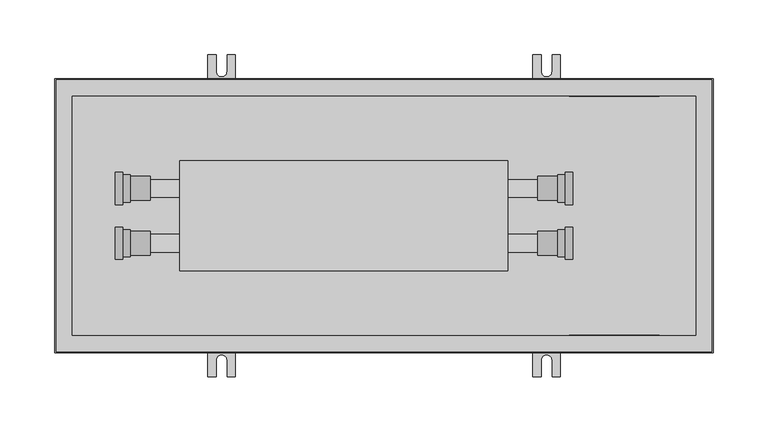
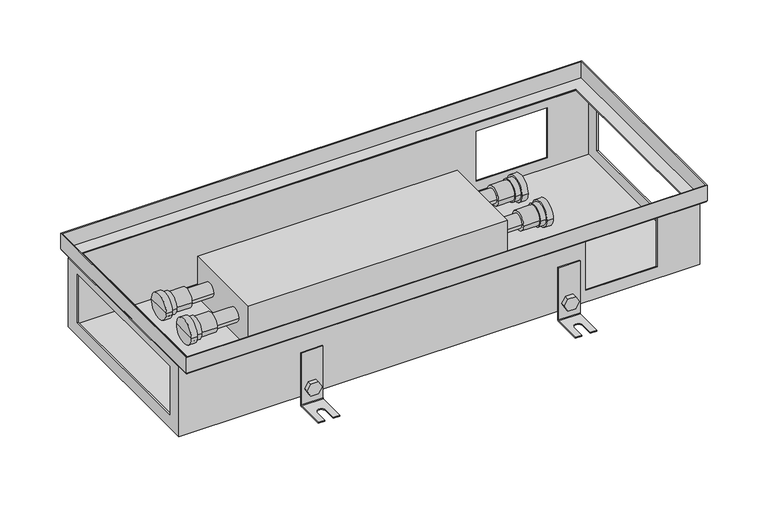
"""IFC4 building model written with IfcOpenShell, lengths in millimetres: proxy geometry, TECHNO_Конвектор встраиваемый_Usual_KVP-250_85-105-120 : KVP 250-105."""

from ifc_helpers import new_model, si_unit, point, frame, frame_2d, origin, place, context, project, spatial, polyline, circle_curve, ellipse_curve, trimmed, segment, composite_curve, outline, extrude, faceted_brep, source, transform, mapped, element, save
from ifc_brep_helpers import plane_surface, cylinder_surface, revolved_surface, advanced_brep


def mechanical_equipment_b7342399(model_context):
    return source(origin(), model_context, "Body", "SolidModel", [
        extrude(outline(composite_curve([segment(trimmed(circle_curve(frame_2d((-95.5, 448.2)), 7.5), [point((-95.5, 440.7))], [point((-95.5, 455.7))], False, "CARTESIAN"), True, "CONTINUOUS"), segment(trimmed(circle_curve(frame_2d((-95.5, 448.2)), 7.5), [point((-95.5, 455.7))], [point((-95.5, 440.7))], False, "CARTESIAN"), True, "CONTINUOUS")], self_intersect=False)), frame((0.0, 110.2, 0.0), z_axis=(0.0, 1.0, 0.0), x_axis=(0.0, 0.0, 1.0)), (0.0, 0.0, 1.0), 1.5),
        extrude(outline(polyline([(-95.5, 439.539746), (-103.0, 443.869873), (-103.0, 452.530127), (-95.5, 456.860254), (-88.0, 452.530127), (-88.0, 443.869873), (-95.5, 439.539746)])), frame((0.0, 112.9, 0.0), z_axis=(0.0, 1.0, 0.0), x_axis=(0.0, 0.0, 1.0)), (0.0, 0.0, 1.0), 5.1),
        advanced_brep(
        [(460.7, 112.9, -50.5), (460.7, 111.7, -50.5), (460.7, 111.7, -113.5), (460.7, 113.7, -115.5), (460.7, 146.7, -115.5), (460.7, 146.7, -114.3), (460.7, 113.7, -114.3), (460.7, 112.9, -113.5), (435.7, 112.9, -50.5), (435.7, 112.9, -113.5), (435.7, 113.7, -114.3), (435.7, 146.7, -114.3), (435.7, 146.7, -115.5), (435.7, 113.7, -115.5), (435.7, 111.7, -113.5), (435.7, 111.7, -50.5), (453.2, 146.7, -114.3), (453.2, 131.7, -114.3), (443.2, 131.7, -114.3), (443.2, 146.7, -114.3), (443.2, 146.7, -115.5), (453.2, 146.7, -115.5), (443.2, 131.7, -115.5), (453.2, 131.7, -115.5)],
        [
            (0, 1),
            (1, 2),
            (2, 3, circle_curve(frame((460.7, 113.7, -113.5), z_axis=(1.0, 0.0, 0.0), x_axis=(0.0, 1.0, 0.0)), 2.0)),
            (3, 4),
            (4, 5),
            (5, 6),
            (6, 7, circle_curve(frame((460.7, 113.7, -113.5), z_axis=(-1.0, 0.0, 0.0), x_axis=(0.0, 1.0, 0.0)), 0.8)),
            (7, 0),
            (8, 9),
            (9, 10, circle_curve(frame((435.7, 113.7, -113.5), z_axis=(1.0, 0.0, 0.0), x_axis=(0.0, 1.0, 0.0)), 0.8)),
            (10, 11),
            (11, 12),
            (12, 13),
            (13, 14, circle_curve(frame((435.7, 113.7, -113.5), z_axis=(-1.0, 0.0, 0.0), x_axis=(0.0, 1.0, 0.0)), 2.0)),
            (14, 15),
            (15, 8),
            (7, 9),
            (8, 0),
            (6, 10),
            (5, 16),
            (16, 17),
            (17, 18, circle_curve(frame((448.2, 131.7, -114.3), z_axis=(0.0, 0.0, -1.0), x_axis=(1.0, 0.0, 0.0)), 5.0)),
            (18, 19),
            (19, 11),
            (19, 20),
            (20, 12),
            (4, 21),
            (21, 16),
            (3, 13),
            (20, 22),
            (22, 23, circle_curve(frame((448.2, 131.7, -115.5), z_axis=(0.0, 0.0, 1.0), x_axis=(1.0, 0.0, 0.0)), 5.0)),
            (23, 21),
            (2, 14),
            (1, 15),
            (18, 22),
            (23, 17),
        ],
        [
            plane_surface(frame((460.7, 112.9, -50.5), z_axis=(1.0, 0.0, 0.0), x_axis=(0.0, 0.0, -1.0))),
            plane_surface(frame((435.7, 112.9, -50.5), z_axis=(-1.0, 0.0, 0.0), x_axis=(0.0, 0.0, 1.0))),
            plane_surface(frame((460.7, 112.9, -50.5), z_axis=(0.0, 1.0, 0.0), x_axis=(-1.0, 0.0, 0.0))),
            revolved_surface(polyline([(435.7, 114.5, -113.5), (460.7, 114.5, -113.5)]), (435.7, 113.7, -113.5), (-1.0, 0.0, 0.0)),
            plane_surface(frame((460.7, 113.7, -114.3), z_axis=(0.0, 0.0, 1.0), x_axis=(-1.0, 0.0, 0.0))),
            plane_surface(frame((460.7, 146.7, -114.3), z_axis=(0.0, 1.0, 0.0), x_axis=(-1.0, 0.0, 0.0))),
            plane_surface(frame((460.7, 146.7, -115.5), z_axis=(0.0, 0.0, -1.0), x_axis=(-1.0, 0.0, 0.0))),
            cylinder_surface(frame((435.7, 113.7, -113.5), z_axis=(1.0, 0.0, 0.0), x_axis=(0.0, 1.0, 0.0)), 2.0),
            plane_surface(frame((460.7, 111.7, -113.5), z_axis=(0.0, -1.0, 0.0), x_axis=(-1.0, 0.0, 0.0))),
            plane_surface(frame((460.7, 111.7, -50.5), z_axis=(0.0, 0.0, 1.0), x_axis=(-1.0, 0.0, 0.0))),
            plane_surface(frame((443.2, 131.7, -114.3), z_axis=(1.0, 0.0, 0.0), x_axis=(0.0, 0.0, -1.0))),
            plane_surface(frame((453.2, 146.7, -114.3), z_axis=(-1.0, 0.0, 0.0), x_axis=(0.0, 0.0, -1.0))),
            revolved_surface(polyline([(453.2, 131.7, -114.3), (453.2, 131.7, -115.5)]), (448.2, 131.7, -115.5), (0.0, 0.0, 1.0)),
        ],
        [
            (0, [[1, 2, 3, 4, 5, 6, 7, 8]]),
            (1, [[9, 10, 11, 12, 13, 14, 15, 16]]),
            (2, [[17, -9, 18, -8]]),
            (3, [[19, -10, -17, -7]]),
            (4, [[20, 21, 22, 23, 24, -11, -19, -6]]),
            (5, [[-24, 25, 26, -12]]),
            (5, [[27, 28, -20, -5]]),
            (6, [[29, -13, -26, 30, 31, 32, -27, -4]]),
            (7, [[33, -14, -29, -3]]),
            (8, [[34, -15, -33, -2]]),
            (9, [[-18, -16, -34, -1]]),
            (10, [[-30, -25, -23, 35]]),
            (11, [[-21, -28, -32, 36]]),
            (12, [[-22, -36, -31, -35]]),
        ],
    ),
        extrude(outline(composite_curve([segment(trimmed(circle_curve(frame_2d((-95.5, 448.2)), 7.5), [point((-95.5, 440.7))], [point((-95.5, 455.7))], False, "CARTESIAN"), True, "CONTINUOUS"), segment(trimmed(circle_curve(frame_2d((-95.5, 448.2)), 7.5), [point((-95.5, 455.7))], [point((-95.5, 440.7))], False, "CARTESIAN"), True, "CONTINUOUS")], self_intersect=False)), frame((0.0, -111.7, 0.0), z_axis=(0.0, 1.0, 0.0), x_axis=(0.0, 0.0, 1.0)), (0.0, 0.0, 1.0), 1.5),
        extrude(outline(polyline([(-95.5, 439.539746), (-103.0, 443.869873), (-103.0, 452.530127), (-95.5, 456.860254), (-88.0, 452.530127), (-88.0, 443.869873), (-95.5, 439.539746)])), frame((0.0, -118.0, 0.0), z_axis=(0.0, 1.0, 0.0), x_axis=(0.0, 0.0, 1.0)), (0.0, 0.0, 1.0), 5.1),
        advanced_brep(
        [(460.7, -112.9, -50.5), (460.7, -112.9, -113.5), (460.7, -113.7, -114.3), (460.7, -146.7, -114.3), (460.7, -146.7, -115.5), (460.7, -113.7, -115.5), (460.7, -111.7, -113.5), (460.7, -111.7, -50.5), (435.7, -112.9, -50.5), (435.7, -111.7, -50.5), (435.7, -111.7, -113.5), (435.7, -113.7, -115.5), (435.7, -146.7, -115.5), (435.7, -146.7, -114.3), (435.7, -113.7, -114.3), (435.7, -112.9, -113.5), (443.2, -146.7, -114.3), (443.2, -131.7, -114.3), (453.2, -131.7, -114.3), (453.2, -146.7, -114.3), (453.2, -146.7, -115.5), (443.2, -146.7, -115.5), (453.2, -131.7, -115.5), (443.2, -131.7, -115.5)],
        [
            (0, 1),
            (1, 2, circle_curve(frame((460.7, -113.7, -113.5), z_axis=(-1.0, 0.0, 0.0), x_axis=(0.0, -1.0, 0.0)), 0.8)),
            (2, 3),
            (3, 4),
            (4, 5),
            (5, 6, circle_curve(frame((460.7, -113.7, -113.5), z_axis=(1.0, 0.0, 0.0), x_axis=(0.0, -1.0, 0.0)), 2.0)),
            (6, 7),
            (7, 0),
            (8, 9),
            (9, 10),
            (10, 11, circle_curve(frame((435.7, -113.7, -113.5), z_axis=(-1.0, 0.0, 0.0), x_axis=(0.0, -1.0, 0.0)), 2.0)),
            (11, 12),
            (12, 13),
            (13, 14),
            (14, 15, circle_curve(frame((435.7, -113.7, -113.5), z_axis=(1.0, 0.0, 0.0), x_axis=(0.0, -1.0, 0.0)), 0.8)),
            (15, 8),
            (0, 8),
            (15, 1),
            (14, 2),
            (13, 16),
            (16, 17),
            (17, 18, circle_curve(frame((448.2, -131.7, -114.3), z_axis=(0.0, 0.0, -1.0), x_axis=(1.0, 0.0, 0.0)), 5.0)),
            (18, 19),
            (19, 3),
            (19, 20),
            (20, 4),
            (12, 21),
            (21, 16),
            (20, 22),
            (22, 23, circle_curve(frame((448.2, -131.7, -115.5), z_axis=(0.0, 0.0, 1.0), x_axis=(1.0, 0.0, 0.0)), 5.0)),
            (23, 21),
            (11, 5),
            (10, 6),
            (9, 7),
            (23, 17),
            (18, 22),
        ],
        [
            plane_surface(frame((460.7, -112.9, -50.5), z_axis=(1.0, 0.0, 0.0), x_axis=(0.0, 0.0, -1.0))),
            plane_surface(frame((435.7, -112.9, -50.5), z_axis=(-1.0, 0.0, 0.0), x_axis=(0.0, 0.0, 1.0))),
            plane_surface(frame((460.7, -112.9, -50.5), z_axis=(0.0, -1.0, 0.0), x_axis=(-1.0, 0.0, 0.0))),
            revolved_surface(polyline([(435.7, -114.5, -113.5), (460.7, -114.5, -113.5)]), (435.7, -113.7, -113.5), (-1.0, 0.0, 0.0)),
            plane_surface(frame((460.7, -113.7, -114.3), z_axis=(0.0, 0.0, 1.0), x_axis=(-1.0, 0.0, 0.0))),
            plane_surface(frame((460.7, -146.7, -114.3), z_axis=(0.0, -1.0, 0.0), x_axis=(-1.0, 0.0, 0.0))),
            plane_surface(frame((460.7, -146.7, -115.5), z_axis=(0.0, 0.0, -1.0), x_axis=(-1.0, 0.0, 0.0))),
            cylinder_surface(frame((435.7, -113.7, -113.5), z_axis=(1.0, 0.0, 0.0), x_axis=(0.0, -1.0, 0.0)), 2.0),
            plane_surface(frame((460.7, -111.7, -113.5), z_axis=(0.0, 1.0, 0.0), x_axis=(-1.0, 0.0, 0.0))),
            plane_surface(frame((460.7, -111.7, -50.5), z_axis=(0.0, 0.0, 1.0), x_axis=(-1.0, 0.0, 0.0))),
            plane_surface(frame((443.2, -131.7, -114.3), z_axis=(1.0, 0.0, 0.0), x_axis=(0.0, 0.0, -1.0))),
            plane_surface(frame((453.2, -146.7, -114.3), z_axis=(-1.0, 0.0, 0.0), x_axis=(0.0, 0.0, -1.0))),
            revolved_surface(polyline([(453.2, -131.7, -114.3), (453.2, -131.7, -115.5)]), (448.2, -131.7, -115.5), (0.0, 0.0, 1.0)),
        ],
        [
            (0, [[1, 2, 3, 4, 5, 6, 7, 8]]),
            (1, [[9, 10, 11, 12, 13, 14, 15, 16]]),
            (2, [[-1, 17, -16, 18]]),
            (3, [[-2, -18, -15, 19]]),
            (4, [[-3, -19, -14, 20, 21, 22, 23, 24]]),
            (5, [[-4, -24, 25, 26]]),
            (5, [[-13, 27, 28, -20]]),
            (6, [[-5, -26, 29, 30, 31, -27, -12, 32]]),
            (7, [[-6, -32, -11, 33]]),
            (8, [[-7, -33, -10, 34]]),
            (9, [[-8, -34, -9, -17]]),
            (10, [[35, -21, -28, -31]]),
            (11, [[36, -29, -25, -23]]),
            (12, [[-35, -30, -36, -22]]),
        ],
    ),
        extrude(outline(composite_curve([segment(trimmed(circle_curve(frame_2d((-95.5, 152.0)), 7.5), [point((-95.5, 144.5))], [point((-95.5, 159.5))], False, "CARTESIAN"), True, "CONTINUOUS"), segment(trimmed(circle_curve(frame_2d((-95.5, 152.0)), 7.5), [point((-95.5, 159.5))], [point((-95.5, 144.5))], False, "CARTESIAN"), True, "CONTINUOUS")], self_intersect=False)), frame((0.0, 110.2, 0.0), z_axis=(0.0, 1.0, 0.0), x_axis=(0.0, 0.0, 1.0)), (0.0, 0.0, 1.0), 1.5),
        extrude(outline(polyline([(-95.5, 143.339746), (-103.0, 147.669873), (-103.0, 156.330127), (-95.5, 160.660254), (-88.0, 156.330127), (-88.0, 147.669873), (-95.5, 143.339746)])), frame((0.0, 112.9, 0.0), z_axis=(0.0, 1.0, 0.0), x_axis=(0.0, 0.0, 1.0)), (0.0, 0.0, 1.0), 5.1),
        advanced_brep(
        [(164.5, 112.9, -50.5), (164.5, 111.7, -50.5), (164.5, 111.7, -113.5), (164.5, 113.7, -115.5), (164.5, 146.7, -115.5), (164.5, 146.7, -114.3), (164.5, 113.7, -114.3), (164.5, 112.9, -113.5), (139.5, 112.9, -50.5), (139.5, 112.9, -113.5), (139.5, 113.7, -114.3), (139.5, 146.7, -114.3), (139.5, 146.7, -115.5), (139.5, 113.7, -115.5), (139.5, 111.7, -113.5), (139.5, 111.7, -50.5), (157.0, 146.7, -114.3), (157.0, 131.7, -114.3), (147.0, 131.7, -114.3), (147.0, 146.7, -114.3), (147.0, 146.7, -115.5), (157.0, 146.7, -115.5), (147.0, 131.7, -115.5), (157.0, 131.7, -115.5)],
        [
            (0, 1),
            (1, 2),
            (2, 3, circle_curve(frame((164.5, 113.7, -113.5), z_axis=(1.0, 0.0, 0.0), x_axis=(0.0, 1.0, 0.0)), 2.0)),
            (3, 4),
            (4, 5),
            (5, 6),
            (6, 7, circle_curve(frame((164.5, 113.7, -113.5), z_axis=(-1.0, 0.0, 0.0), x_axis=(0.0, 1.0, 0.0)), 0.8)),
            (7, 0),
            (8, 9),
            (9, 10, circle_curve(frame((139.5, 113.7, -113.5), z_axis=(1.0, 0.0, 0.0), x_axis=(0.0, 1.0, 0.0)), 0.8)),
            (10, 11),
            (11, 12),
            (12, 13),
            (13, 14, circle_curve(frame((139.5, 113.7, -113.5), z_axis=(-1.0, 0.0, 0.0), x_axis=(0.0, 1.0, 0.0)), 2.0)),
            (14, 15),
            (15, 8),
            (7, 9),
            (8, 0),
            (6, 10),
            (5, 16),
            (16, 17),
            (17, 18, circle_curve(frame((152.0, 131.7, -114.3), z_axis=(0.0, 0.0, -1.0), x_axis=(1.0, 0.0, 0.0)), 5.0)),
            (18, 19),
            (19, 11),
            (19, 20),
            (20, 12),
            (4, 21),
            (21, 16),
            (3, 13),
            (20, 22),
            (22, 23, circle_curve(frame((152.0, 131.7, -115.5), z_axis=(0.0, 0.0, 1.0), x_axis=(1.0, 0.0, 0.0)), 5.0)),
            (23, 21),
            (2, 14),
            (1, 15),
            (18, 22),
            (23, 17),
        ],
        [
            plane_surface(frame((164.5, 112.9, -50.5), z_axis=(1.0, 0.0, 0.0), x_axis=(0.0, 0.0, -1.0))),
            plane_surface(frame((139.5, 112.9, -50.5), z_axis=(-1.0, 0.0, 0.0), x_axis=(0.0, 0.0, 1.0))),
            plane_surface(frame((164.5, 112.9, -50.5), z_axis=(0.0, 1.0, 0.0), x_axis=(-1.0, 0.0, 0.0))),
            revolved_surface(polyline([(139.5, 114.5, -113.5), (164.5, 114.5, -113.5)]), (139.5, 113.7, -113.5), (-1.0, 0.0, 0.0)),
            plane_surface(frame((164.5, 113.7, -114.3), z_axis=(0.0, 0.0, 1.0), x_axis=(-1.0, 0.0, 0.0))),
            plane_surface(frame((164.5, 146.7, -114.3), z_axis=(0.0, 1.0, 0.0), x_axis=(-1.0, 0.0, 0.0))),
            plane_surface(frame((164.5, 146.7, -115.5), z_axis=(0.0, 0.0, -1.0), x_axis=(-1.0, 0.0, 0.0))),
            cylinder_surface(frame((139.5, 113.7, -113.5), z_axis=(1.0, 0.0, 0.0), x_axis=(0.0, 1.0, 0.0)), 2.0),
            plane_surface(frame((164.5, 111.7, -113.5), z_axis=(0.0, -1.0, 0.0), x_axis=(-1.0, 0.0, 0.0))),
            plane_surface(frame((164.5, 111.7, -50.5), z_axis=(0.0, 0.0, 1.0), x_axis=(-1.0, 0.0, 0.0))),
            plane_surface(frame((147.0, 131.7, -114.3), z_axis=(1.0, 0.0, 0.0), x_axis=(0.0, 0.0, -1.0))),
            plane_surface(frame((157.0, 146.7, -114.3), z_axis=(-1.0, 0.0, 0.0), x_axis=(0.0, 0.0, -1.0))),
            revolved_surface(polyline([(157.0, 131.7, -114.3), (157.0, 131.7, -115.5)]), (152.0, 131.7, -115.5), (0.0, 0.0, 1.0)),
        ],
        [
            (0, [[1, 2, 3, 4, 5, 6, 7, 8]]),
            (1, [[9, 10, 11, 12, 13, 14, 15, 16]]),
            (2, [[17, -9, 18, -8]]),
            (3, [[19, -10, -17, -7]]),
            (4, [[20, 21, 22, 23, 24, -11, -19, -6]]),
            (5, [[-24, 25, 26, -12]]),
            (5, [[27, 28, -20, -5]]),
            (6, [[29, -13, -26, 30, 31, 32, -27, -4]]),
            (7, [[33, -14, -29, -3]]),
            (8, [[34, -15, -33, -2]]),
            (9, [[-18, -16, -34, -1]]),
            (10, [[-30, -25, -23, 35]]),
            (11, [[-21, -28, -32, 36]]),
            (12, [[-22, -36, -31, -35]]),
        ],
    ),
        extrude(outline(composite_curve([segment(trimmed(circle_curve(frame_2d((-95.5, 152.0)), 7.5), [point((-95.5, 144.5))], [point((-95.5, 159.5))], False, "CARTESIAN"), True, "CONTINUOUS"), segment(trimmed(circle_curve(frame_2d((-95.5, 152.0)), 7.5), [point((-95.5, 159.5))], [point((-95.5, 144.5))], False, "CARTESIAN"), True, "CONTINUOUS")], self_intersect=False)), frame((0.0, -111.7, 0.0), z_axis=(0.0, 1.0, 0.0), x_axis=(0.0, 0.0, 1.0)), (0.0, 0.0, 1.0), 1.5),
        extrude(outline(polyline([(-95.5, 143.339746), (-103.0, 147.669873), (-103.0, 156.330127), (-95.5, 160.660254), (-88.0, 156.330127), (-88.0, 147.669873), (-95.5, 143.339746)])), frame((0.0, -118.0, 0.0), z_axis=(0.0, 1.0, 0.0), x_axis=(0.0, 0.0, 1.0)), (0.0, 0.0, 1.0), 5.1),
        advanced_brep(
        [(164.5, -112.9, -50.5), (164.5, -112.9, -113.5), (164.5, -113.7, -114.3), (164.5, -146.7, -114.3), (164.5, -146.7, -115.5), (164.5, -113.7, -115.5), (164.5, -111.7, -113.5), (164.5, -111.7, -50.5), (139.5, -112.9, -50.5), (139.5, -111.7, -50.5), (139.5, -111.7, -113.5), (139.5, -113.7, -115.5), (139.5, -146.7, -115.5), (139.5, -146.7, -114.3), (139.5, -113.7, -114.3), (139.5, -112.9, -113.5), (147.0, -146.7, -114.3), (147.0, -131.7, -114.3), (157.0, -131.7, -114.3), (157.0, -146.7, -114.3), (157.0, -146.7, -115.5), (147.0, -146.7, -115.5), (157.0, -131.7, -115.5), (147.0, -131.7, -115.5)],
        [
            (0, 1),
            (1, 2, circle_curve(frame((164.5, -113.7, -113.5), z_axis=(-1.0, 0.0, 0.0), x_axis=(0.0, -1.0, 0.0)), 0.8)),
            (2, 3),
            (3, 4),
            (4, 5),
            (5, 6, circle_curve(frame((164.5, -113.7, -113.5), z_axis=(1.0, 0.0, 0.0), x_axis=(0.0, -1.0, 0.0)), 2.0)),
            (6, 7),
            (7, 0),
            (8, 9),
            (9, 10),
            (10, 11, circle_curve(frame((139.5, -113.7, -113.5), z_axis=(-1.0, 0.0, 0.0), x_axis=(0.0, -1.0, 0.0)), 2.0)),
            (11, 12),
            (12, 13),
            (13, 14),
            (14, 15, circle_curve(frame((139.5, -113.7, -113.5), z_axis=(1.0, 0.0, 0.0), x_axis=(0.0, -1.0, 0.0)), 0.8)),
            (15, 8),
            (0, 8),
            (15, 1),
            (14, 2),
            (13, 16),
            (16, 17),
            (17, 18, circle_curve(frame((152.0, -131.7, -114.3), z_axis=(0.0, 0.0, -1.0), x_axis=(1.0, 0.0, 0.0)), 5.0)),
            (18, 19),
            (19, 3),
            (19, 20),
            (20, 4),
            (12, 21),
            (21, 16),
            (20, 22),
            (22, 23, circle_curve(frame((152.0, -131.7, -115.5), z_axis=(0.0, 0.0, 1.0), x_axis=(1.0, 0.0, 0.0)), 5.0)),
            (23, 21),
            (11, 5),
            (10, 6),
            (9, 7),
            (23, 17),
            (18, 22),
        ],
        [
            plane_surface(frame((164.5, -112.9, -50.5), z_axis=(1.0, 0.0, 0.0), x_axis=(0.0, 0.0, -1.0))),
            plane_surface(frame((139.5, -112.9, -50.5), z_axis=(-1.0, 0.0, 0.0), x_axis=(0.0, 0.0, 1.0))),
            plane_surface(frame((164.5, -112.9, -50.5), z_axis=(0.0, -1.0, 0.0), x_axis=(-1.0, 0.0, 0.0))),
            revolved_surface(polyline([(139.5, -114.5, -113.5), (164.5, -114.5, -113.5)]), (139.5, -113.7, -113.5), (-1.0, 0.0, 0.0)),
            plane_surface(frame((164.5, -113.7, -114.3), z_axis=(0.0, 0.0, 1.0), x_axis=(-1.0, 0.0, 0.0))),
            plane_surface(frame((164.5, -146.7, -114.3), z_axis=(0.0, -1.0, 0.0), x_axis=(-1.0, 0.0, 0.0))),
            plane_surface(frame((164.5, -146.7, -115.5), z_axis=(0.0, 0.0, -1.0), x_axis=(-1.0, 0.0, 0.0))),
            cylinder_surface(frame((139.5, -113.7, -113.5), z_axis=(1.0, 0.0, 0.0), x_axis=(0.0, -1.0, 0.0)), 2.0),
            plane_surface(frame((164.5, -111.7, -113.5), z_axis=(0.0, 1.0, 0.0), x_axis=(-1.0, 0.0, 0.0))),
            plane_surface(frame((164.5, -111.7, -50.5), z_axis=(0.0, 0.0, 1.0), x_axis=(-1.0, 0.0, 0.0))),
            plane_surface(frame((147.0, -131.7, -114.3), z_axis=(1.0, 0.0, 0.0), x_axis=(0.0, 0.0, -1.0))),
            plane_surface(frame((157.0, -146.7, -114.3), z_axis=(-1.0, 0.0, 0.0), x_axis=(0.0, 0.0, -1.0))),
            revolved_surface(polyline([(157.0, -131.7, -114.3), (157.0, -131.7, -115.5)]), (152.0, -131.7, -115.5), (0.0, 0.0, 1.0)),
        ],
        [
            (0, [[1, 2, 3, 4, 5, 6, 7, 8]]),
            (1, [[9, 10, 11, 12, 13, 14, 15, 16]]),
            (2, [[-1, 17, -16, 18]]),
            (3, [[-2, -18, -15, 19]]),
            (4, [[-3, -19, -14, 20, 21, 22, 23, 24]]),
            (5, [[-4, -24, 25, 26]]),
            (5, [[-13, 27, 28, -20]]),
            (6, [[-5, -26, 29, 30, 31, -27, -12, 32]]),
            (7, [[-6, -32, -11, 33]]),
            (8, [[-7, -33, -10, 34]]),
            (9, [[-8, -34, -9, -17]]),
            (10, [[35, -21, -28, -31]]),
            (11, [[36, -29, -25, -23]]),
            (12, [[-35, -30, -36, -22]]),
        ],
    ),
        advanced_brep(
        [(87.0, 14.0, -47.5), (87.0, 36.0, -47.5), (87.0, 25.0, -47.5), (68.5, 14.0, -47.5), (68.5, 36.0, -47.5), (68.5, 12.5, -47.5), (68.5, 37.5, -47.5), (62.0, 12.5, -47.5), (62.0, 37.5, -47.5), (62.0, 10.3, -47.5), (62.0, 39.7, -47.5), (55.0, 10.3, -47.5), (55.0, 39.7, -47.5), (55.0, 25.0, -47.5)],
        [
            (0, 1, circle_curve(frame((87.0, 25.0, -47.5), z_axis=(1.0, 0.0, 0.0), x_axis=(0.0, 1.0, 0.0)), 11.0)),
            (1, 2),
            (2, 0),
            (1, 0, circle_curve(frame((87.0, 25.0, -47.5), z_axis=(1.0, 0.0, 0.0), x_axis=(0.0, 1.0, 0.0)), 11.0)),
            (3, 4, circle_curve(frame((68.5, 25.0, -47.5), z_axis=(1.0, 0.0, 0.0), x_axis=(0.0, 1.0, 0.0)), 11.0)),
            (4, 1),
            (0, 3),
            (4, 3, circle_curve(frame((68.5, 25.0, -47.5), z_axis=(1.0, 0.0, 0.0), x_axis=(0.0, 1.0, 0.0)), 11.0)),
            (5, 6, circle_curve(frame((68.5, 25.0, -47.5), z_axis=(1.0, 0.0, 0.0), x_axis=(0.0, 1.0, 0.0)), 12.5)),
            (6, 4),
            (3, 5),
            (6, 5, circle_curve(frame((68.5, 25.0, -47.5), z_axis=(1.0, 0.0, 0.0), x_axis=(0.0, 1.0, 0.0)), 12.5)),
            (7, 8, circle_curve(frame((62.0, 25.0, -47.5), z_axis=(1.0, 0.0, 0.0), x_axis=(0.0, 1.0, 0.0)), 12.5)),
            (8, 6),
            (5, 7),
            (8, 7, circle_curve(frame((62.0, 25.0, -47.5), z_axis=(1.0, 0.0, 0.0), x_axis=(0.0, 1.0, 0.0)), 12.5)),
            (9, 10, circle_curve(frame((62.0, 25.0, -47.5), z_axis=(1.0, 0.0, 0.0), x_axis=(0.0, 1.0, 0.0)), 14.7)),
            (10, 8),
            (7, 9),
            (10, 9, circle_curve(frame((62.0, 25.0, -47.5), z_axis=(1.0, 0.0, 0.0), x_axis=(0.0, 1.0, 0.0)), 14.7)),
            (11, 12, circle_curve(frame((55.0, 25.0, -47.5), z_axis=(1.0, 0.0, 0.0), x_axis=(0.0, 1.0, 0.0)), 14.7)),
            (12, 10),
            (9, 11),
            (12, 11, circle_curve(frame((55.0, 25.0, -47.5), z_axis=(1.0, 0.0, 0.0), x_axis=(0.0, 1.0, 0.0)), 14.7)),
            (13, 12),
            (11, 13),
        ],
        [
            plane_surface(frame((87.0, 25.0, -47.5), z_axis=(1.0, 0.0, 0.0), x_axis=(0.0, 1.0, 0.0))),
            cylinder_surface(frame((45.0, 25.0, -47.5), z_axis=(-1.0, 0.0, 0.0), x_axis=(0.0, 1.0, 0.0)), 11.0),
            plane_surface(frame((68.5, 25.0, -47.5), z_axis=(1.0, 0.0, 0.0), x_axis=(0.0, 1.0, 0.0))),
            cylinder_surface(frame((45.0, 25.0, -47.5), z_axis=(-1.0, 0.0, 0.0), x_axis=(0.0, 1.0, 0.0)), 12.5),
            plane_surface(frame((62.0, 25.0, -47.5), z_axis=(1.0, 0.0, 0.0), x_axis=(0.0, 1.0, 0.0))),
            cylinder_surface(frame((45.0, 25.0, -47.5), z_axis=(-1.0, 0.0, 0.0), x_axis=(0.0, 1.0, 0.0)), 14.7),
            plane_surface(frame((55.0, 25.0, -47.5), z_axis=(-1.0, 0.0, 0.0), x_axis=(0.0, 1.0, 0.0))),
        ],
        [
            (0, [[1, 2, 3]]),
            (0, [[4, -3, -2]]),
            (1, [[5, 6, -1, 7]]),
            (1, [[8, -7, -4, -6]]),
            (2, [[9, 10, -5, 11]]),
            (2, [[12, -11, -8, -10]]),
            (3, [[13, 14, -9, 15]]),
            (3, [[16, -15, -12, -14]]),
            (4, [[17, 18, -13, 19]]),
            (4, [[20, -19, -16, -18]]),
            (5, [[21, 22, -17, 23]]),
            (5, [[24, -23, -20, -22]]),
            (6, [[25, -21, 26]]),
            (6, [[-26, -24, -25]]),
        ],
    ),
        advanced_brep(
        [(87.0, -36.0, -47.5), (87.0, -14.0, -47.5), (87.0, -25.0, -47.5), (68.5, -36.0, -47.5), (68.5, -14.0, -47.5), (68.5, -37.5, -47.5), (68.5, -12.5, -47.5), (62.0, -37.5, -47.5), (62.0, -12.5, -47.5), (62.0, -39.7, -47.5), (62.0, -10.3, -47.5), (55.0, -39.7, -47.5), (55.0, -10.3, -47.5), (55.0, -25.0, -47.5)],
        [
            (0, 1, circle_curve(frame((87.0, -25.0, -47.5), z_axis=(1.0, 0.0, 0.0), x_axis=(0.0, 1.0, 0.0)), 11.0)),
            (1, 2),
            (2, 0),
            (1, 0, circle_curve(frame((87.0, -25.0, -47.5), z_axis=(1.0, 0.0, 0.0), x_axis=(0.0, 1.0, 0.0)), 11.0)),
            (3, 4, circle_curve(frame((68.5, -25.0, -47.5), z_axis=(1.0, 0.0, 0.0), x_axis=(0.0, 1.0, 0.0)), 11.0)),
            (4, 1),
            (0, 3),
            (4, 3, circle_curve(frame((68.5, -25.0, -47.5), z_axis=(1.0, 0.0, 0.0), x_axis=(0.0, 1.0, 0.0)), 11.0)),
            (5, 6, circle_curve(frame((68.5, -25.0, -47.5), z_axis=(1.0, 0.0, 0.0), x_axis=(0.0, 1.0, 0.0)), 12.5)),
            (6, 4),
            (3, 5),
            (6, 5, circle_curve(frame((68.5, -25.0, -47.5), z_axis=(1.0, 0.0, 0.0), x_axis=(0.0, 1.0, 0.0)), 12.5)),
            (7, 8, circle_curve(frame((62.0, -25.0, -47.5), z_axis=(1.0, 0.0, 0.0), x_axis=(0.0, 1.0, 0.0)), 12.5)),
            (8, 6),
            (5, 7),
            (8, 7, circle_curve(frame((62.0, -25.0, -47.5), z_axis=(1.0, 0.0, 0.0), x_axis=(0.0, 1.0, 0.0)), 12.5)),
            (9, 10, circle_curve(frame((62.0, -25.0, -47.5), z_axis=(1.0, 0.0, 0.0), x_axis=(0.0, 1.0, 0.0)), 14.7)),
            (10, 8),
            (7, 9),
            (10, 9, circle_curve(frame((62.0, -25.0, -47.5), z_axis=(1.0, 0.0, 0.0), x_axis=(0.0, 1.0, 0.0)), 14.7)),
            (11, 12, circle_curve(frame((55.0, -25.0, -47.5), z_axis=(1.0, 0.0, 0.0), x_axis=(0.0, 1.0, 0.0)), 14.7)),
            (12, 10),
            (9, 11),
            (12, 11, circle_curve(frame((55.0, -25.0, -47.5), z_axis=(1.0, 0.0, 0.0), x_axis=(0.0, 1.0, 0.0)), 14.7)),
            (13, 12),
            (11, 13),
        ],
        [
            plane_surface(frame((87.0, -25.0, -47.5), z_axis=(1.0, 0.0, 0.0), x_axis=(0.0, 1.0, 0.0))),
            cylinder_surface(frame((45.0, -25.0, -47.5), z_axis=(-1.0, 0.0, 0.0), x_axis=(0.0, 1.0, 0.0)), 11.0),
            plane_surface(frame((68.5, -25.0, -47.5), z_axis=(1.0, 0.0, 0.0), x_axis=(0.0, 1.0, 0.0))),
            cylinder_surface(frame((45.0, -25.0, -47.5), z_axis=(-1.0, 0.0, 0.0), x_axis=(0.0, 1.0, 0.0)), 12.5),
            plane_surface(frame((62.0, -25.0, -47.5), z_axis=(1.0, 0.0, 0.0), x_axis=(0.0, 1.0, 0.0))),
            cylinder_surface(frame((45.0, -25.0, -47.5), z_axis=(-1.0, 0.0, 0.0), x_axis=(0.0, 1.0, 0.0)), 14.7),
            plane_surface(frame((55.0, -25.0, -47.5), z_axis=(-1.0, 0.0, 0.0), x_axis=(0.0, 1.0, 0.0))),
        ],
        [
            (0, [[1, 2, 3]]),
            (0, [[4, -3, -2]]),
            (1, [[5, 6, -1, 7]]),
            (1, [[8, -7, -4, -6]]),
            (2, [[9, 10, -5, 11]]),
            (2, [[12, -11, -8, -10]]),
            (3, [[13, 14, -9, 15]]),
            (3, [[16, -15, -12, -14]]),
            (4, [[17, 18, -13, 19]]),
            (4, [[20, -19, -16, -18]]),
            (5, [[21, 22, -17, 23]]),
            (5, [[24, -23, -20, -22]]),
            (6, [[25, -21, 26]]),
            (6, [[-26, -24, -25]]),
        ],
    ),
        extrude(outline(polyline([(413.0, 50.0), (413.0, -50.0), (114.0, -50.0), (114.0, 50.0), (413.0, 50.0)])), frame((0.0, 0.0, -72.5), z_axis=(0.0, 0.0, 1.0), x_axis=(1.0, 0.0, 0.0)), (0.0, 0.0, 1.0), 50.0),
        advanced_brep(
        [(440.0, 25.0, -47.5), (440.0, 36.0, -47.5), (440.0, 14.0, -47.5), (458.5, 36.0, -47.5), (458.5, 14.0, -47.5), (458.5, 37.5, -47.5), (458.5, 12.5, -47.5), (465.0, 37.5, -47.5), (465.0, 12.5, -47.5), (465.0, 39.7, -47.5), (465.0, 10.3, -47.5), (472.0, 39.7, -47.5), (472.0, 10.3, -47.5), (472.0, 25.0, -47.5)],
        [
            (0, 1),
            (1, 2, circle_curve(frame((440.0, 25.0, -47.5), z_axis=(-1.0, 0.0, 0.0), x_axis=(0.0, 1.0, 0.0)), 11.0)),
            (2, 0),
            (2, 1, circle_curve(frame((440.0, 25.0, -47.5), z_axis=(-1.0, 0.0, 0.0), x_axis=(0.0, 1.0, 0.0)), 11.0)),
            (1, 3),
            (3, 4, circle_curve(frame((458.5, 25.0, -47.5), z_axis=(-1.0, 0.0, 0.0), x_axis=(0.0, 1.0, 0.0)), 11.0)),
            (4, 2),
            (4, 3, circle_curve(frame((458.5, 25.0, -47.5), z_axis=(-1.0, 0.0, 0.0), x_axis=(0.0, 1.0, 0.0)), 11.0)),
            (3, 5),
            (5, 6, circle_curve(frame((458.5, 25.0, -47.5), z_axis=(-1.0, 0.0, 0.0), x_axis=(0.0, 1.0, 0.0)), 12.5)),
            (6, 4),
            (6, 5, circle_curve(frame((458.5, 25.0, -47.5), z_axis=(-1.0, 0.0, 0.0), x_axis=(0.0, 1.0, 0.0)), 12.5)),
            (5, 7),
            (7, 8, circle_curve(frame((465.0, 25.0, -47.5), z_axis=(-1.0, 0.0, 0.0), x_axis=(0.0, 1.0, 0.0)), 12.5)),
            (8, 6),
            (8, 7, circle_curve(frame((465.0, 25.0, -47.5), z_axis=(-1.0, 0.0, 0.0), x_axis=(0.0, 1.0, 0.0)), 12.5)),
            (7, 9),
            (9, 10, circle_curve(frame((465.0, 25.0, -47.5), z_axis=(-1.0, 0.0, 0.0), x_axis=(0.0, 1.0, 0.0)), 14.7)),
            (10, 8),
            (10, 9, circle_curve(frame((465.0, 25.0, -47.5), z_axis=(-1.0, 0.0, 0.0), x_axis=(0.0, 1.0, 0.0)), 14.7)),
            (9, 11),
            (11, 12, circle_curve(frame((472.0, 25.0, -47.5), z_axis=(-1.0, 0.0, 0.0), x_axis=(0.0, 1.0, 0.0)), 14.7)),
            (12, 10),
            (12, 11, circle_curve(frame((472.0, 25.0, -47.5), z_axis=(-1.0, 0.0, 0.0), x_axis=(0.0, 1.0, 0.0)), 14.7)),
            (11, 13),
            (13, 12),
        ],
        [
            plane_surface(frame((440.0, 25.0, -47.5), z_axis=(-1.0, 0.0, 0.0), x_axis=(0.0, 1.0, 0.0))),
            cylinder_surface(frame((472.0, 25.0, -47.5), z_axis=(-1.0, 0.0, 0.0), x_axis=(0.0, 1.0, 0.0)), 11.0),
            plane_surface(frame((458.5, 25.0, -47.5), z_axis=(-1.0, 0.0, 0.0), x_axis=(0.0, 1.0, 0.0))),
            cylinder_surface(frame((472.0, 25.0, -47.5), z_axis=(-1.0, 0.0, 0.0), x_axis=(0.0, 1.0, 0.0)), 12.5),
            plane_surface(frame((465.0, 25.0, -47.5), z_axis=(-1.0, 0.0, 0.0), x_axis=(0.0, 1.0, 0.0))),
            cylinder_surface(frame((472.0, 25.0, -47.5), z_axis=(-1.0, 0.0, 0.0), x_axis=(0.0, 1.0, 0.0)), 14.7),
            plane_surface(frame((472.0, 25.0, -47.5), z_axis=(1.0, 0.0, 0.0), x_axis=(0.0, 1.0, 0.0))),
        ],
        [
            (0, [[1, 2, 3]]),
            (0, [[-3, 4, -1]]),
            (1, [[-2, 5, 6, 7]]),
            (1, [[-4, -7, 8, -5]]),
            (2, [[-6, 9, 10, 11]]),
            (2, [[-8, -11, 12, -9]]),
            (3, [[-10, 13, 14, 15]]),
            (3, [[-12, -15, 16, -13]]),
            (4, [[-14, 17, 18, 19]]),
            (4, [[-16, -19, 20, -17]]),
            (5, [[-18, 21, 22, 23]]),
            (5, [[-20, -23, 24, -21]]),
            (6, [[-22, 25, 26]]),
            (6, [[-24, -26, -25]]),
        ],
    ),
        advanced_brep(
        [(440.0, -25.0, -47.5), (440.0, -14.0, -47.5), (440.0, -36.0, -47.5), (458.5, -14.0, -47.5), (458.5, -36.0, -47.5), (458.5, -12.5, -47.5), (458.5, -37.5, -47.5), (465.0, -12.5, -47.5), (465.0, -37.5, -47.5), (465.0, -10.3, -47.5), (465.0, -39.7, -47.5), (472.0, -10.3, -47.5), (472.0, -39.7, -47.5), (472.0, -25.0, -47.5)],
        [
            (0, 1),
            (1, 2, circle_curve(frame((440.0, -25.0, -47.5), z_axis=(-1.0, 0.0, 0.0), x_axis=(0.0, 1.0, 0.0)), 11.0)),
            (2, 0),
            (2, 1, circle_curve(frame((440.0, -25.0, -47.5), z_axis=(-1.0, 0.0, 0.0), x_axis=(0.0, 1.0, 0.0)), 11.0)),
            (1, 3),
            (3, 4, circle_curve(frame((458.5, -25.0, -47.5), z_axis=(-1.0, 0.0, 0.0), x_axis=(0.0, 1.0, 0.0)), 11.0)),
            (4, 2),
            (4, 3, circle_curve(frame((458.5, -25.0, -47.5), z_axis=(-1.0, 0.0, 0.0), x_axis=(0.0, 1.0, 0.0)), 11.0)),
            (3, 5),
            (5, 6, circle_curve(frame((458.5, -25.0, -47.5), z_axis=(-1.0, 0.0, 0.0), x_axis=(0.0, 1.0, 0.0)), 12.5)),
            (6, 4),
            (6, 5, circle_curve(frame((458.5, -25.0, -47.5), z_axis=(-1.0, 0.0, 0.0), x_axis=(0.0, 1.0, 0.0)), 12.5)),
            (5, 7),
            (7, 8, circle_curve(frame((465.0, -25.0, -47.5), z_axis=(-1.0, 0.0, 0.0), x_axis=(0.0, 1.0, 0.0)), 12.5)),
            (8, 6),
            (8, 7, circle_curve(frame((465.0, -25.0, -47.5), z_axis=(-1.0, 0.0, 0.0), x_axis=(0.0, 1.0, 0.0)), 12.5)),
            (7, 9),
            (9, 10, circle_curve(frame((465.0, -25.0, -47.5), z_axis=(-1.0, 0.0, 0.0), x_axis=(0.0, 1.0, 0.0)), 14.7)),
            (10, 8),
            (10, 9, circle_curve(frame((465.0, -25.0, -47.5), z_axis=(-1.0, 0.0, 0.0), x_axis=(0.0, 1.0, 0.0)), 14.7)),
            (9, 11),
            (11, 12, circle_curve(frame((472.0, -25.0, -47.5), z_axis=(-1.0, 0.0, 0.0), x_axis=(0.0, 1.0, 0.0)), 14.7)),
            (12, 10),
            (12, 11, circle_curve(frame((472.0, -25.0, -47.5), z_axis=(-1.0, 0.0, 0.0), x_axis=(0.0, 1.0, 0.0)), 14.7)),
            (11, 13),
            (13, 12),
        ],
        [
            plane_surface(frame((440.0, -25.0, -47.5), z_axis=(-1.0, 0.0, 0.0), x_axis=(0.0, 1.0, 0.0))),
            cylinder_surface(frame((472.0, -25.0, -47.5), z_axis=(-1.0, 0.0, 0.0), x_axis=(0.0, 1.0, 0.0)), 11.0),
            plane_surface(frame((458.5, -25.0, -47.5), z_axis=(-1.0, 0.0, 0.0), x_axis=(0.0, 1.0, 0.0))),
            cylinder_surface(frame((472.0, -25.0, -47.5), z_axis=(-1.0, 0.0, 0.0), x_axis=(0.0, 1.0, 0.0)), 12.5),
            plane_surface(frame((465.0, -25.0, -47.5), z_axis=(-1.0, 0.0, 0.0), x_axis=(0.0, 1.0, 0.0))),
            cylinder_surface(frame((472.0, -25.0, -47.5), z_axis=(-1.0, 0.0, 0.0), x_axis=(0.0, 1.0, 0.0)), 14.7),
            plane_surface(frame((472.0, -25.0, -47.5), z_axis=(1.0, 0.0, 0.0), x_axis=(0.0, 1.0, 0.0))),
        ],
        [
            (0, [[1, 2, 3]]),
            (0, [[-3, 4, -1]]),
            (1, [[-2, 5, 6, 7]]),
            (1, [[-4, -7, 8, -5]]),
            (2, [[-6, 9, 10, 11]]),
            (2, [[-8, -11, 12, -9]]),
            (3, [[-10, 13, 14, 15]]),
            (3, [[-12, -15, 16, -13]]),
            (4, [[-14, 17, 18, 19]]),
            (4, [[-16, -19, 20, -17]]),
            (5, [[-18, 21, 22, 23]]),
            (5, [[-20, -23, 24, -21]]),
            (6, [[-22, 25, 26]]),
            (6, [[-24, -26, -25]]),
        ],
    ),
        extrude(outline(composite_curve([segment(trimmed(circle_curve(frame_2d((25.0, -47.5)), 8.0), [point((17.0, -47.5))], [point((33.0, -47.5))], False, "CARTESIAN"), True, "CONTINUOUS"), segment(trimmed(circle_curve(frame_2d((25.0, -47.5)), 8.0), [point((33.0, -47.5))], [point((17.0, -47.5))], False, "CARTESIAN"), True, "CONTINUOUS")], self_intersect=False)), frame((87.0, 0.0, 0.0), z_axis=(1.0, 0.0, 0.0), x_axis=(0.0, 1.0, 0.0)), (0.0, 0.0, 1.0), 353.0),
        extrude(outline(composite_curve([segment(trimmed(circle_curve(frame_2d((-25.0, -47.5)), 8.0), [point((-33.0, -47.5))], [point((-17.0, -47.5))], False, "CARTESIAN"), True, "CONTINUOUS"), segment(trimmed(circle_curve(frame_2d((-25.0, -47.5)), 8.0), [point((-17.0, -47.5))], [point((-33.0, -47.5))], False, "CARTESIAN"), True, "CONTINUOUS")], self_intersect=False)), frame((87.0, 0.0, 0.0), z_axis=(1.0, 0.0, 0.0), x_axis=(0.0, 1.0, 0.0)), (0.0, 0.0, 1.0), 353.0),
        faceted_brep([(598.8, -109.0, -103.8), (598.8, 109.0, -103.8), (1.2, 109.0, -103.8), (1.2, -109.0, -103.8), (0.0, -110.2, -105.0), (0.0, 110.2, -105.0), (600.0, 110.2, -105.0), (600.0, -110.2, -105.0), (600.0, -110.2, -20.5), (0.0, -110.2, -20.5), (469.0, -110.2, -30.0), (551.0, -110.2, -30.0), (551.0, -110.2, -91.0), (469.0, -110.2, -91.0), (600.0, 110.2, -20.5), (600.0, 92.5, -30.0), (600.0, 92.5, -89.0), (600.0, -92.5, -89.0), (600.0, -92.5, -30.0), (0.0, 110.2, -20.5), (551.0, 110.2, -30.0), (469.0, 110.2, -30.0), (469.0, 110.2, -91.0), (551.0, 110.2, -91.0), (0.0, 92.5, -89.0), (0.0, 92.5, -30.0), (0.0, -92.5, -30.0), (0.0, -92.5, -89.0), (598.8, -109.0, -20.5), (598.8, 109.0, -20.5), (598.8, 92.5, -89.0), (598.8, 92.5, -30.0), (598.8, -92.5, -30.0), (598.8, -92.5, -89.0), (1.2, -109.0, -20.5), (551.0, -109.0, -30.0), (469.0, -109.0, -30.0), (469.0, -109.0, -91.0), (551.0, -109.0, -91.0), (1.2, 109.0, -20.5), (1.2, 92.5, -30.0), (1.2, 92.5, -89.0), (1.2, -92.5, -89.0), (1.2, -92.5, -30.0), (469.0, 109.0, -30.0), (551.0, 109.0, -30.0), (551.0, 109.0, -91.0), (469.0, 109.0, -91.0)], [[[0, 1, 2, 3]], [[4, 5, 6, 7]], [[4, 7, 8, 9], [10, 11, 12, 13]], [[7, 6, 14, 8], [15, 16, 17, 18]], [[6, 5, 19, 14], [20, 21, 22, 23]], [[5, 4, 9, 19], [24, 25, 26, 27]], [[28, 29, 1, 0], [30, 31, 32, 33]], [[34, 28, 0, 3], [35, 36, 37, 38]], [[39, 34, 3, 2], [40, 41, 42, 43]], [[29, 39, 2, 1], [44, 45, 46, 47]], [[8, 14, 19, 9], [29, 28, 34, 39]], [[35, 11, 10, 36]], [[20, 45, 44, 21]], [[36, 10, 13, 37]], [[21, 44, 47, 22]], [[37, 13, 12, 38]], [[22, 47, 46, 23]], [[11, 35, 38, 12]], [[45, 20, 23, 46]], [[15, 31, 30, 16]], [[31, 15, 18, 32]], [[32, 18, 17, 33]], [[16, 30, 33, 17]], [[24, 41, 40, 25]], [[25, 40, 43, 26]], [[26, 43, 42, 27]], [[41, 24, 27, 42]]]),
        advanced_brep(
        [(584.0, 109.0, -19.3), (584.0, 109.0, -20.5), (584.0, -109.0, -20.5), (584.0, -109.0, -19.3), (598.8, 123.8, 0.0), (598.8, 123.8, -19.3), (598.8, -123.8, -19.3), (598.8, -123.8, 0.0), (600.0, 125.0, -18.5), (600.0, 125.0, 0.0), (600.0, -125.0, 0.0), (600.0, -125.0, -18.5), (16.0, -109.0, -20.5), (16.0, -109.0, -19.3), (1.2, -123.8, -19.3), (1.2, -123.8, 0.0), (0.0, -125.0, 0.0), (0.0, -125.0, -18.5), (16.0, 109.0, -20.5), (16.0, 109.0, -19.3), (1.2, 123.8, -19.3), (1.2, 123.8, 0.0), (0.0, 125.0, 0.0), (0.0, 125.0, -18.5), (598.0, -123.0, -20.5), (2.0, -123.0, -20.5), (2.0, 123.0, -20.5), (598.0, 123.0, -20.5)],
        [
            (0, 1),
            (1, 2),
            (2, 3),
            (3, 0),
            (4, 5),
            (5, 6),
            (6, 7),
            (7, 4),
            (8, 9),
            (9, 10),
            (10, 11),
            (11, 8),
            (2, 12),
            (12, 13),
            (13, 3),
            (6, 14),
            (14, 15),
            (15, 7),
            (10, 16),
            (16, 17),
            (17, 11),
            (12, 18),
            (18, 19),
            (19, 13),
            (14, 20),
            (20, 21),
            (21, 15),
            (16, 22),
            (22, 23),
            (23, 17),
            (24, 25),
            (25, 26),
            (26, 27),
            (27, 24),
            (1, 18),
            (0, 19),
            (5, 20),
            (4, 21),
            (9, 22),
            (8, 23),
            (27, 8, ellipse_curve(frame((598.0, 123.0, -18.5), z_axis=(0.7071067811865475, -0.7071067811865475, 0.0), x_axis=(0.7071067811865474, 0.7071067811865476, 0.0)), 2.8284271, 2.0)),
            (11, 24, ellipse_curve(frame((598.0, -123.0, -18.5), z_axis=(0.7071067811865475, 0.7071067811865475, 0.0), x_axis=(-0.7071067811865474, 0.7071067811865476, 0.0)), 2.8284271, 2.0)),
            (17, 25, ellipse_curve(frame((2.0, -123.0, -18.5), z_axis=(0.7071067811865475, -0.7071067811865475, 0.0), x_axis=(0.7071067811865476, 0.7071067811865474, 0.0)), 2.8284271, 2.0)),
            (23, 26, ellipse_curve(frame((2.0, 123.0, -18.5), z_axis=(-0.7071067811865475, -0.7071067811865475, 0.0), x_axis=(0.7071067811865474, -0.7071067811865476, 0.0)), 2.8284271, 2.0)),
        ],
        [
            plane_surface(frame((584.0, 109.0, -20.5), z_axis=(-1.0, 0.0, 0.0), x_axis=(0.0, -1.0, 0.0))),
            plane_surface(frame((598.8, 123.8, -19.3), z_axis=(-1.0, 0.0, 0.0), x_axis=(0.0, -1.0, 0.0))),
            plane_surface(frame((600.0, 125.0, 0.0), z_axis=(1.0, 0.0, 0.0), x_axis=(0.0, -1.0, 0.0))),
            plane_surface(frame((584.0, -109.0, -20.5), z_axis=(0.0, 1.0, 0.0), x_axis=(-1.0, 0.0, 0.0))),
            plane_surface(frame((598.8, -123.8, -19.3), z_axis=(0.0, 1.0, 0.0), x_axis=(-1.0, 0.0, 0.0))),
            plane_surface(frame((600.0, -125.0, 0.0), z_axis=(0.0, -1.0, 0.0), x_axis=(-1.0, 0.0, 0.0))),
            plane_surface(frame((16.0, -109.0, -20.5), z_axis=(1.0, 0.0, 0.0), x_axis=(0.0, 1.0, 0.0))),
            plane_surface(frame((1.2, -123.8, -19.3), z_axis=(1.0, 0.0, 0.0), x_axis=(0.0, 1.0, 0.0))),
            plane_surface(frame((0.0, -125.0, 0.0), z_axis=(-1.0, 0.0, 0.0), x_axis=(0.0, 1.0, 0.0))),
            plane_surface(frame((2.0, 123.0, -20.5), z_axis=(0.0, 0.0, -1.0), x_axis=(1.0, 0.0, 0.0))),
            plane_surface(frame((16.0, 109.0, -20.5), z_axis=(0.0, -1.0, 0.0), x_axis=(1.0, 0.0, 0.0))),
            plane_surface(frame((16.0, 109.0, -19.3), z_axis=(0.0, 0.0, 1.0), x_axis=(1.0, 0.0, 0.0))),
            plane_surface(frame((1.2, 123.8, -19.3), z_axis=(0.0, -1.0, 0.0), x_axis=(1.0, 0.0, 0.0))),
            plane_surface(frame((1.2, 123.8, 0.0), z_axis=(0.0, 0.0, 1.0), x_axis=(1.0, 0.0, 0.0))),
            plane_surface(frame((0.0, 125.0, 0.0), z_axis=(0.0, 1.0, 0.0), x_axis=(1.0, 0.0, 0.0))),
            cylinder_surface(frame((598.0, 125.0, -18.5), z_axis=(0.0, 1.0, 0.0), x_axis=(1.0, 0.0, 0.0)), 2.0),
            cylinder_surface(frame((600.0, -123.0, -18.5), z_axis=(1.0, 0.0, 0.0), x_axis=(0.0, -1.0, 0.0)), 2.0),
            cylinder_surface(frame((2.0, -125.0, -18.5), z_axis=(0.0, -1.0, 0.0), x_axis=(-1.0, 0.0, 0.0)), 2.0),
            cylinder_surface(frame((0.0, 123.0, -18.5), z_axis=(-1.0, 0.0, 0.0), x_axis=(0.0, 1.0, 0.0)), 2.0),
        ],
        [
            (0, [[1, 2, 3, 4]]),
            (1, [[5, 6, 7, 8]]),
            (2, [[9, 10, 11, 12]]),
            (3, [[-3, 13, 14, 15]]),
            (4, [[-7, 16, 17, 18]]),
            (5, [[-11, 19, 20, 21]]),
            (6, [[-14, 22, 23, 24]]),
            (7, [[-17, 25, 26, 27]]),
            (8, [[-20, 28, 29, 30]]),
            (9, [[31, 32, 33, 34], [35, -22, -13, -2]]),
            (10, [[-23, -35, -1, 36]]),
            (11, [[37, -25, -16, -6], [-15, -24, -36, -4]]),
            (12, [[-26, -37, -5, 38]]),
            (13, [[39, -28, -19, -10], [-18, -27, -38, -8]]),
            (14, [[-29, -39, -9, 40]]),
            (15, [[41, -12, 42, -34]]),
            (16, [[-42, -21, 43, -31]]),
            (17, [[-43, -30, 44, -32]]),
            (18, [[-44, -40, -41, -33]]),
        ],
    ),
    ])


if __name__ == "__main__":
    model = new_model("IFC4")
    model_context = context("Model", 3, world=origin())
    ifc_project = project(units=[si_unit("LENGTHUNIT", "METRE", prefix="MILLI")], contexts=[model_context])
    site = spatial("IfcSite", under=ifc_project)
    building = spatial("IfcBuilding", under=site)
    placement = place(None, origin())
    mechanical_equipment_shape = mechanical_equipment_b7342399(model_context)
    element("IfcBuildingElementProxy", 1, Name="TECHNO_Конвектор встраиваемый_Usual_KVP-250_85-105-120 : KVP 250-105", ObjectType="TECHNO_Конвектор встраиваемый_Usual_KVP-250_85-105-120 : KVP 250-105", at=placement, inside=building, context=model_context, shape_type="MappedRepresentation", body=[
        mapped(mechanical_equipment_shape, transform((0.0, 0.0, 0.0), x_axis=(1.0, 0.0, 0.0), y_axis=(0.0, 1.0, 0.0), z_axis=(0.0, 0.0, 1.0))),
    ])
    save(model, "model.ifc")
